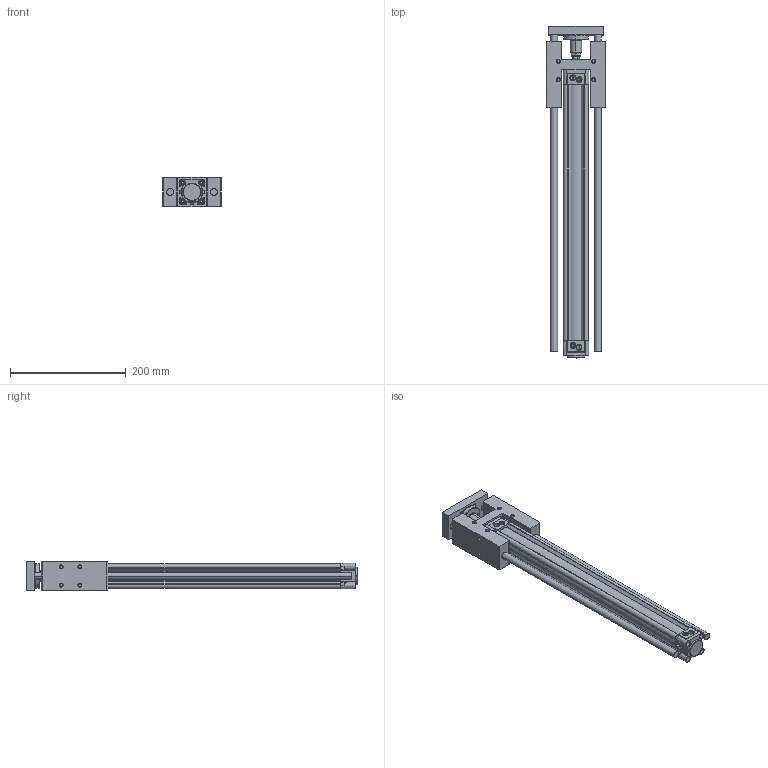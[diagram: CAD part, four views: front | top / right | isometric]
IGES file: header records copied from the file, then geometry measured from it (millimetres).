
Start section: SolidWorks IGES file using analytic representation for surfaces
Global section: file name: D:\ARICA 3D 禽Z軲LER\3D IGES\DNC-H\MDNC\32\MDNC32X400H-YATAK.IGS,1; native system: 5HSolidWorks 2013; preprocessor: SolidWorks 2013; author: user; date: 160517.142306; units: millimetre
Bounding box: 101 x 573.4 x 50.5 mm (x, y, z)
Surface area: 338265.2 mm2 (no closed solid volume)
Topology: 0 solids, 0 shells, 905 faces, 13980 edges, 13950 vertices
Faces by surface type: revolution 550, bspline 355
